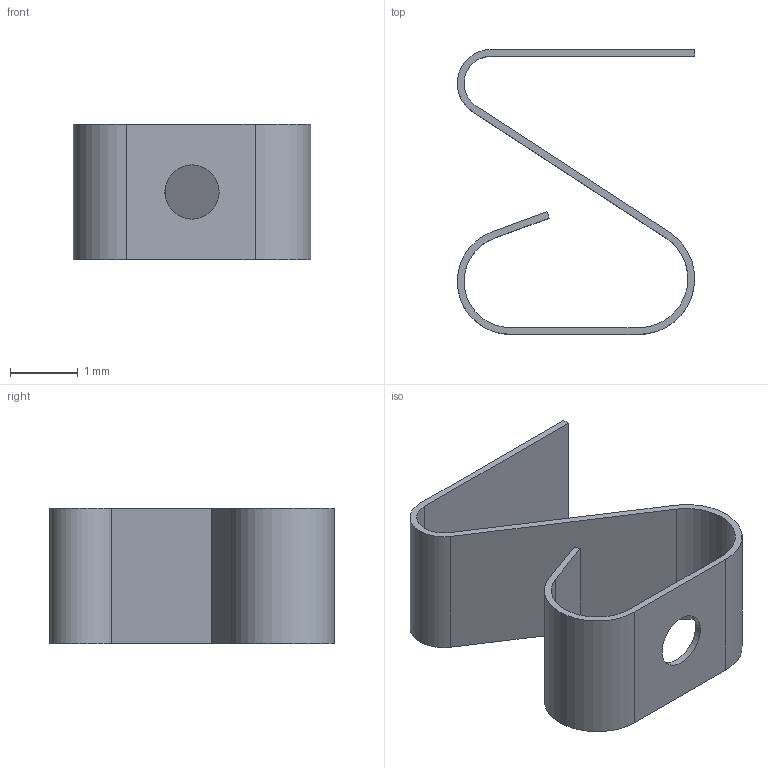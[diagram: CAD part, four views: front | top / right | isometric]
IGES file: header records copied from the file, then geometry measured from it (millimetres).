
Start section:  PTC IGES file: 5G2035042S1.igs
Global section: file name: 5G2035042S1.igs; native system: Creo Parametric by PTC Inc.; preprocessor: 2015200; author: jairo; organization: Unknown; date: 20180316.130129; units: millimetre
Bounding box: 3.5 x 4.2 x 2 mm (x, y, z)
Surface area: 59.8 mm2 (no closed solid volume)
Topology: 0 solids, 0 shells, 20 faces, 108 edges, 108 vertices
Faces by surface type: bspline 12, revolution 8
